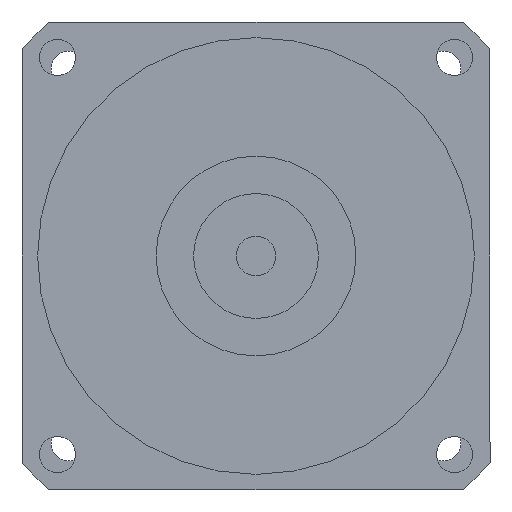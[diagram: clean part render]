
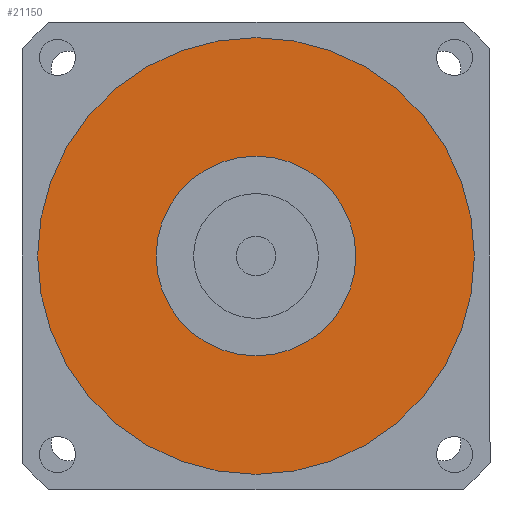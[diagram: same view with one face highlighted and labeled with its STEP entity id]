
A CAD part, left-side view. The second image highlights one B-rep face of the part: STEP entity #21150.
In plain terms, the highlighted planar face has unit normal (-1, 0, 0) as drawn and (0, 0, -1) by its records, which use the part's own axes.
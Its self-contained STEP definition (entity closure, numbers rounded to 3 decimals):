
#20580=CARTESIAN_POINT('',(35.,0.,-89.5));
#20590=VERTEX_POINT('',#20580);
#20620=CARTESIAN_POINT('',(0.,0.,
-89.5));
#20630=DIRECTION('',(0.,0.,1.));
#20640=DIRECTION('',(0.,-1.,0.));
#20650=AXIS2_PLACEMENT_3D('',#20620,#20630,#20640);
#20660=CIRCLE('',#20650,35.);
#20670=CARTESIAN_POINT('',(0.,-35.,-89.5));
#20680=VERTEX_POINT('',#20670);
#20690=EDGE_CURVE('',#20680,#20590,#20660,.T.);
#20710=CARTESIAN_POINT('',(-35.,0.,-89.5));
#20720=VERTEX_POINT('',#20710);
#20730=EDGE_CURVE('',#20720,#20680,#20660,.T.);
#20850=CARTESIAN_POINT('',(0.,0.,
-89.5));
#20860=DIRECTION('',(0.,0.,1.));
#20870=DIRECTION('',(-1.,0.,0.));
#20880=AXIS2_PLACEMENT_3D('',#20850,#20860,#20870);
#20890=PLANE('',#20880);
#20900=ORIENTED_EDGE('',*,*,#20690,.F.);
#20910=EDGE_CURVE('',#20590,#20720,#20660,.T.);
#20920=ORIENTED_EDGE('',*,*,#20910,.F.);
#20930=ORIENTED_EDGE('',*,*,#20730,.F.);
#20940=EDGE_LOOP('',(#20930,#20920,#20900));
#20950=FACE_OUTER_BOUND('',#20940,.T.);
#20960=CARTESIAN_POINT('',(0.,0.,
-89.5));
#20970=DIRECTION('',(0.,0.,1.));
#20980=DIRECTION('',(0.,-1.,0.));
#20990=AXIS2_PLACEMENT_3D('',#20960,#20970,#20980);
#21000=CIRCLE('',#20990,16.);
#21010=CARTESIAN_POINT('',(16.,0.,-89.5));
#21020=VERTEX_POINT('',#21010);
#21030=CARTESIAN_POINT('',(-16.,0.,-89.5));
#21040=VERTEX_POINT('',#21030);
#21050=EDGE_CURVE('',#21020,#21040,#21000,.T.);
#21060=ORIENTED_EDGE('',*,*,#21050,.T.);
#21070=CARTESIAN_POINT('',(0.,-16.,-89.5));
#21080=VERTEX_POINT('',#21070);
#21090=EDGE_CURVE('',#21080,#21020,#21000,.T.);
#21100=ORIENTED_EDGE('',*,*,#21090,.T.);
#21110=EDGE_CURVE('',#21040,#21080,#21000,.T.);
#21120=ORIENTED_EDGE('',*,*,#21110,.T.);
#21130=EDGE_LOOP('',(#21120,#21100,#21060));
#21140=FACE_BOUND('',#21130,.T.);
#21150=ADVANCED_FACE('',(#20950,#21140),#20890,.F.);
